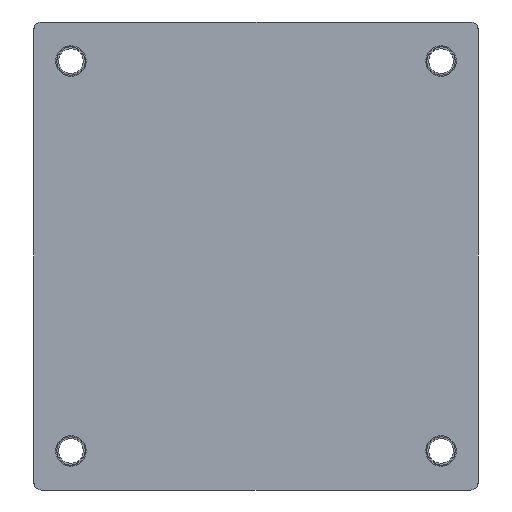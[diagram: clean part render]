
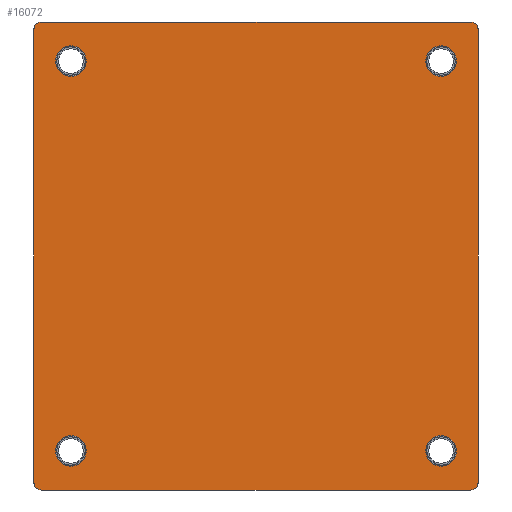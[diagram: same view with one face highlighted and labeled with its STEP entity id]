
A CAD part, front view. The second image highlights one B-rep face of the part: STEP entity #16072.
In plain terms, the highlighted planar face has unit normal (0, -1, 0).
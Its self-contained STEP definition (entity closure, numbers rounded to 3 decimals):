
#252 = CIRCLE ( 'NONE', #15256, 1. ) ;
#268 = ORIENTED_EDGE ( 'NONE', *, *, #8705, .F. ) ;
#290 = CARTESIAN_POINT ( 'NONE',  ( 28.95, -1.5, -30.5 ) ) ;
#348 = VERTEX_POINT ( 'NONE', #10869 ) ;
#597 = AXIS2_PLACEMENT_3D ( 'NONE', #6536, #16351, #2179 ) ;
#796 = FACE_BOUND ( 'NONE', #11256, .T. ) ;
#894 = FACE_OUTER_BOUND ( 'NONE', #10989, .T. ) ;
#898 = CIRCLE ( 'NONE', #597, 1. ) ;
#1058 = CARTESIAN_POINT ( 'NONE',  ( -28.95, -1.5, 30.5 ) ) ;
#1100 = DIRECTION ( 'NONE',  ( 0., 1., 0. ) ) ;
#1363 = CARTESIAN_POINT ( 'NONE',  ( 24.13, -1.5, -25.4 ) ) ;
#1595 = VERTEX_POINT ( 'NONE', #6811 ) ;
#1772 = ORIENTED_EDGE ( 'NONE', *, *, #2484, .F. ) ;
#2161 = ORIENTED_EDGE ( 'NONE', *, *, #16372, .T. ) ;
#2179 = DIRECTION ( 'NONE',  ( 0., 0., 1. ) ) ;
#2185 = ORIENTED_EDGE ( 'NONE', *, *, #12081, .T. ) ;
#2407 = EDGE_LOOP ( 'NONE', ( #2781 ) ) ;
#2484 = EDGE_CURVE ( 'NONE', #4081, #2908, #4167, .T. ) ;
#2551 = ORIENTED_EDGE ( 'NONE', *, *, #5544, .F. ) ;
#2581 = AXIS2_PLACEMENT_3D ( 'NONE', #12359, #1100, #16403 ) ;
#2590 = CARTESIAN_POINT ( 'NONE',  ( 27.95, -1.5, 30.5 ) ) ;
#2624 = CARTESIAN_POINT ( 'NONE',  ( -24.13, -1.5, 25.4 ) ) ;
#2752 = EDGE_CURVE ( 'NONE', #14276, #14276, #4050, .T. ) ;
#2774 = ORIENTED_EDGE ( 'NONE', *, *, #6619, .T. ) ;
#2781 = ORIENTED_EDGE ( 'NONE', *, *, #10089, .T. ) ;
#2908 = VERTEX_POINT ( 'NONE', #9981 ) ;
#3093 = AXIS2_PLACEMENT_3D ( 'NONE', #1363, #4427, #15375 ) ;
#3407 = DIRECTION ( 'NONE',  ( 0., 0., 1. ) ) ;
#3641 = ORIENTED_EDGE ( 'NONE', *, *, #6554, .F. ) ;
#3667 = PLANE ( 'NONE',  #11081 ) ;
#4050 = CIRCLE ( 'NONE', #2581, 2. ) ;
#4081 = VERTEX_POINT ( 'NONE', #5809 ) ;
#4112 = EDGE_CURVE ( 'NONE', #7039, #7039, #9312, .T. ) ;
#4139 = CARTESIAN_POINT ( 'NONE',  ( 27.95, -1.5, 29.5 ) ) ;
#4143 = ORIENTED_EDGE ( 'NONE', *, *, #2752, .T. ) ;
#4167 = LINE ( 'NONE', #290, #15204 ) ;
#4427 = DIRECTION ( 'NONE',  ( 0., 1., 0. ) ) ;
#4726 = VERTEX_POINT ( 'NONE', #10372 ) ;
#4932 = DIRECTION ( 'NONE',  ( 0., 0., 1. ) ) ;
#5236 = FACE_BOUND ( 'NONE', #2407, .T. ) ;
#5515 = DIRECTION ( 'NONE',  ( 0., -1., 0. ) ) ;
#5544 = EDGE_CURVE ( 'NONE', #348, #14101, #5992, .T. ) ;
#5809 = CARTESIAN_POINT ( 'NONE',  ( 28.95, -1.5, 29.5 ) ) ;
#5992 = LINE ( 'NONE', #11548, #16701 ) ;
#6494 = AXIS2_PLACEMENT_3D ( 'NONE', #13362, #8970, #3407 ) ;
#6536 = CARTESIAN_POINT ( 'NONE',  ( -27.95, -1.5, 29.5 ) ) ;
#6554 = EDGE_CURVE ( 'NONE', #18116, #1595, #14981, .T. ) ;
#6619 = EDGE_CURVE ( 'NONE', #348, #18040, #898, .T. ) ;
#6811 = CARTESIAN_POINT ( 'NONE',  ( -27.95, -1.5, -30.5 ) ) ;
#6838 = AXIS2_PLACEMENT_3D ( 'NONE', #8396, #10576, #4932 ) ;
#7039 = VERTEX_POINT ( 'NONE', #17222 ) ;
#7071 = EDGE_CURVE ( 'NONE', #18116, #2908, #8322, .T. ) ;
#7101 = ORIENTED_EDGE ( 'NONE', *, *, #7071, .T. ) ;
#7533 = ORIENTED_EDGE ( 'NONE', *, *, #11038, .T. ) ;
#7779 = CARTESIAN_POINT ( 'NONE',  ( 24.13, -1.5, 27.4 ) ) ;
#7800 = CARTESIAN_POINT ( 'NONE',  ( -28.95, -1.5, 29.5 ) ) ;
#8051 = LINE ( 'NONE', #13642, #12240 ) ;
#8085 = CARTESIAN_POINT ( 'NONE',  ( -28.95, -1.5, -30.5 ) ) ;
#8322 = CIRCLE ( 'NONE', #6838, 1. ) ;
#8396 = CARTESIAN_POINT ( 'NONE',  ( 27.95, -1.5, -29.5 ) ) ;
#8705 = EDGE_CURVE ( 'NONE', #10295, #18040, #8051, .T. ) ;
#8729 = DIRECTION ( 'NONE',  ( 0., -1., 0. ) ) ;
#8970 = DIRECTION ( 'NONE',  ( 0., 1., 0. ) ) ;
#9312 = CIRCLE ( 'NONE', #3093, 2. ) ;
#9575 = DIRECTION ( 'NONE',  ( 0., 1., 0. ) ) ;
#9981 = CARTESIAN_POINT ( 'NONE',  ( 28.95, -1.5, -29.5 ) ) ;
#10089 = EDGE_CURVE ( 'NONE', #4726, #4726, #11431, .T. ) ;
#10295 = VERTEX_POINT ( 'NONE', #14119 ) ;
#10372 = CARTESIAN_POINT ( 'NONE',  ( -24.13, -1.5, 27.4 ) ) ;
#10576 = DIRECTION ( 'NONE',  ( 0., -1., 0. ) ) ;
#10698 = DIRECTION ( 'NONE',  ( 0., 0., 1. ) ) ;
#10859 = DIRECTION ( 'NONE',  ( 0., 1., 0. ) ) ;
#10869 = CARTESIAN_POINT ( 'NONE',  ( -27.95, -1.5, 30.5 ) ) ;
#10989 = EDGE_LOOP ( 'NONE', ( #268, #2161, #3641, #7101, #1772, #7533, #2551, #2774 ) ) ;
#11038 = EDGE_CURVE ( 'NONE', #4081, #14101, #252, .T. ) ;
#11081 = AXIS2_PLACEMENT_3D ( 'NONE', #1058, #9575, #10698 ) ;
#11256 = EDGE_LOOP ( 'NONE', ( #4143 ) ) ;
#11334 = DIRECTION ( 'NONE',  ( 0., 0., 1. ) ) ;
#11365 = DIRECTION ( 'NONE',  ( 0., 0., -1. ) ) ;
#11369 = EDGE_LOOP ( 'NONE', ( #13100 ) ) ;
#11431 = CIRCLE ( 'NONE', #13759, 2. ) ;
#11548 = CARTESIAN_POINT ( 'NONE',  ( -28.95, -1.5, 30.5 ) ) ;
#11834 = VERTEX_POINT ( 'NONE', #7779 ) ;
#12071 = FACE_BOUND ( 'NONE', #12267, .T. ) ;
#12081 = EDGE_CURVE ( 'NONE', #11834, #11834, #13812, .T. ) ;
#12125 = CARTESIAN_POINT ( 'NONE',  ( 27.95, -1.5, -30.5 ) ) ;
#12240 = VECTOR ( 'NONE', #13379, 1000. ) ;
#12267 = EDGE_LOOP ( 'NONE', ( #2185 ) ) ;
#12359 = CARTESIAN_POINT ( 'NONE',  ( -24.13, -1.5, -25.4 ) ) ;
#12833 = CIRCLE ( 'NONE', #16642, 1. ) ;
#13100 = ORIENTED_EDGE ( 'NONE', *, *, #4112, .T. ) ;
#13362 = CARTESIAN_POINT ( 'NONE',  ( 24.13, -1.5, 25.4 ) ) ;
#13379 = DIRECTION ( 'NONE',  ( 0., 0., 1. ) ) ;
#13642 = CARTESIAN_POINT ( 'NONE',  ( -28.95, -1.5, -30.5 ) ) ;
#13759 = AXIS2_PLACEMENT_3D ( 'NONE', #2624, #10859, #16440 ) ;
#13812 = CIRCLE ( 'NONE', #6494, 2. ) ;
#14101 = VERTEX_POINT ( 'NONE', #2590 ) ;
#14119 = CARTESIAN_POINT ( 'NONE',  ( -28.95, -1.5, -29.5 ) ) ;
#14276 = VERTEX_POINT ( 'NONE', #15391 ) ;
#14316 = DIRECTION ( 'NONE',  ( 0., 0., 1. ) ) ;
#14795 = DIRECTION ( 'NONE',  ( -1., 0., 0. ) ) ;
#14981 = LINE ( 'NONE', #8085, #17066 ) ;
#15204 = VECTOR ( 'NONE', #11365, 1000. ) ;
#15256 = AXIS2_PLACEMENT_3D ( 'NONE', #4139, #5515, #11334 ) ;
#15375 = DIRECTION ( 'NONE',  ( 0., 0., 1. ) ) ;
#15391 = CARTESIAN_POINT ( 'NONE',  ( -24.13, -1.5, -23.4 ) ) ;
#15696 = CARTESIAN_POINT ( 'NONE',  ( -27.95, -1.5, -29.5 ) ) ;
#16072 = ADVANCED_FACE ( 'NONE', ( #17827, #796, #12071, #5236, #894 ), #3667, .F. ) ;
#16351 = DIRECTION ( 'NONE',  ( 0., -1., 0. ) ) ;
#16372 = EDGE_CURVE ( 'NONE', #10295, #1595, #12833, .T. ) ;
#16403 = DIRECTION ( 'NONE',  ( 0., 0., 1. ) ) ;
#16440 = DIRECTION ( 'NONE',  ( 0., 0., 1. ) ) ;
#16642 = AXIS2_PLACEMENT_3D ( 'NONE', #15696, #8729, #14316 ) ;
#16701 = VECTOR ( 'NONE', #17045, 1000. ) ;
#17045 = DIRECTION ( 'NONE',  ( 1., 0., 0. ) ) ;
#17066 = VECTOR ( 'NONE', #14795, 1000. ) ;
#17222 = CARTESIAN_POINT ( 'NONE',  ( 24.13, -1.5, -23.4 ) ) ;
#17827 = FACE_BOUND ( 'NONE', #11369, .T. ) ;
#18040 = VERTEX_POINT ( 'NONE', #7800 ) ;
#18116 = VERTEX_POINT ( 'NONE', #12125 ) ;
